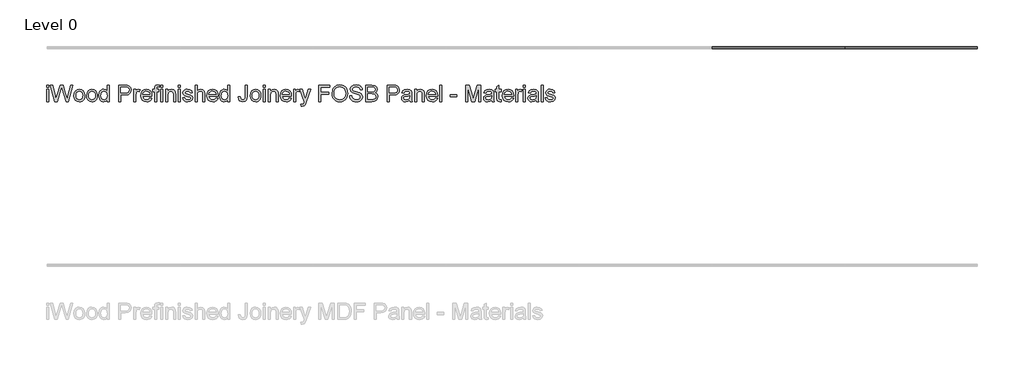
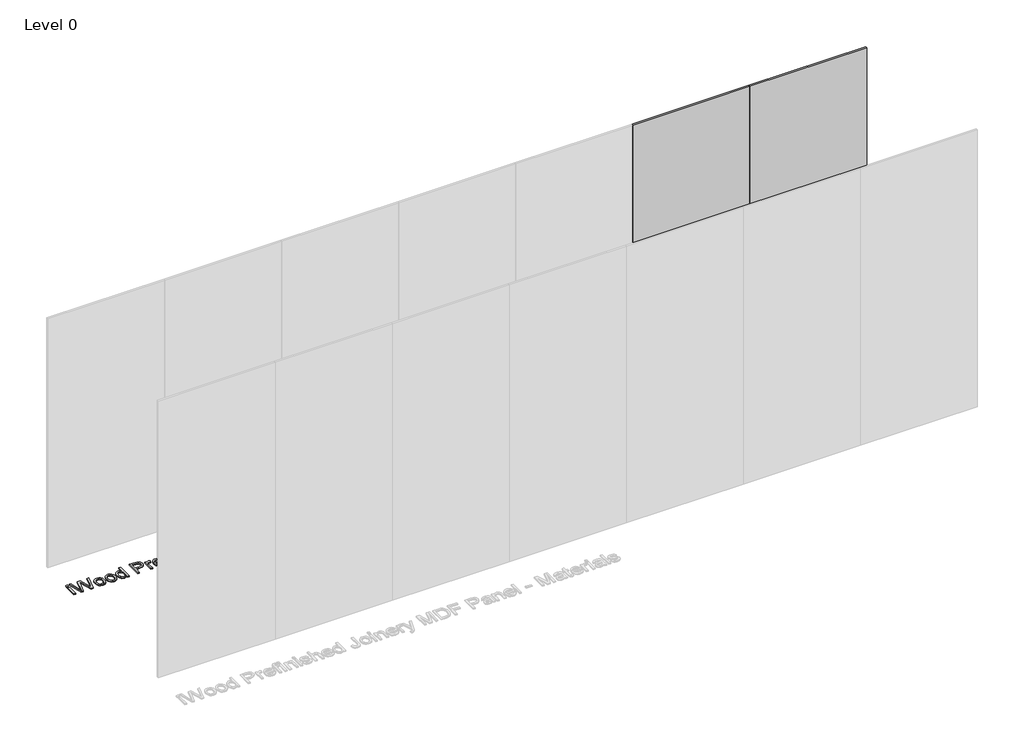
# One storey, part 2 of 2: 3 proxies.
"""IFC4 building model written with IfcOpenShell, lengths in millimetres."""

from ifc_helpers import new_model, si_unit, origin, origin_with_axes, place, context, project, spatial, polyline, outline, extrude, transform, mapped, element, save
from components import generic_models_e840f3b6

model = new_model("IFC4")

# Units and contexts
model_context = context("Model", 3, world=origin())
ifc_project = project(units=[si_unit("LENGTHUNIT", "METRE", prefix="MILLI")], contexts=[model_context])

# Site, building, storey
site = spatial("IfcSite", under=ifc_project)
building = spatial("IfcBuilding", under=site)
storey = spatial("IfcBuildingStorey", under=building, Name="Level 0", Elevation=0.0)

# Proxies
placement = place(None, origin())
generic_models_shape = generic_models_e840f3b6(model_context)
element("IfcBuildingElementProxy", 1, Name="Cladding Board_iWood_FOSB Panel_Spotted Gum : Cladding Board_iWood_FOSB Panel_Spotted Gum", ObjectType="Cladding Board_iWood_FOSB Panel_Spotted Gum : Cladding Board_iWood_FOSB Panel_Spotted Gum", at=placement, inside=storey, context=model_context, shape_type="MappedRepresentation", body=[
    mapped(generic_models_shape, transform((362.0501575, 1494.2915428, 0.0), x_axis=(1.0, 0.0, 0.0), y_axis=(0.0, 1.0, 0.0), z_axis=(0.0, 0.0, 1.0))),
])
element("IfcBuildingElementProxy", 2, Name="Cladding Board_iWood_FOSB Panel_Tasmanian Oak : Cladding Board_iWood_FOSB Panel_Tasmanian Oak", ObjectType="Cladding Board_iWood_FOSB Panel_Tasmanian Oak : Cladding Board_iWood_FOSB Panel_Tasmanian Oak", at=placement, inside=storey, context=model_context, shape_type="MappedRepresentation", body=[
    mapped(generic_models_shape, transform((1582.0501575, 1494.2915428, 0.0), x_axis=(1.0, 0.0, 0.0), y_axis=(0.0, 1.0, 0.0), z_axis=(0.0, 0.0, 1.0))),
])
element("IfcBuildingElementProxy", 3, Name="150mm Arial", ObjectType="150mm Arial", at=placement, inside=storey, context=model_context, shape_type="SweptSolid", body=[
    extrude(outline(polyline([(-5803.3402849, 3099.71536), (-5803.3402849, 3118.5509181), (-5784.5047267, 3118.5509181), (-5784.5047267, 3099.71536), (-5803.3402849, 3099.71536)])), origin_with_axes(), (0.0, 0.0, 1.0), 10.0),
    extrude(outline(polyline([(-5803.3402849, 2967.8664529), (-5803.3402849, 3078.5253571), (-5784.5047267, 3078.5253571), (-5784.5047267, 2967.8664529), (-5803.3402849, 2967.8664529)])), origin_with_axes(), (0.0, 0.0, 1.0), 10.0),
    extrude(outline(polyline([(-5726.9311945, 2967.8664529), (-5768.0236133, 3118.5509181), (-5748.599444, 3118.5509181), (-5724.7606907, 3019.517085), (-5717.4030508, 2988.9460912), (-5709.5303761, 3015.9854179), (-5679.6583581, 3118.5509181), (-5651.6625383, 3118.5509181), (-5629.9575005, 3044.2019669), (-5613.8074809, 2988.9460912), (-5606.6705702, 3018.6341683), (-5582.6110878, 3118.5509181), (-5563.1869184, 3118.5509181), (-5604.3161255, 2967.8664529), (-5624.4392706, 2967.8664529), (-5660.5652825, 3084.1171634), (-5665.6052659, 3100.3407594), (-5671.2706486, 3080.8062254), (-5704.1960872, 2967.8664529), (-5726.9311945, 2967.8664529)])), origin_with_axes(), (0.0, 0.0, 1.0), 10.0),
    extrude(outline(polyline([(-5551.4146946, 3023.195905), (-5547.3404015, 3049.8765467), (-5535.1175222, 3068.6293314), (-5520.0159663, 3077.8171842), (-5501.9345662, 3080.8798018), (-5482.1471134, 3077.1503981), (-5466.3419832, 3065.9621869), (-5455.9815065, 3048.1980851), (-5452.5280143, 3024.7410094), (-5454.0547245, 3005.7123132), (-5458.6348554, 2991.2269596), (-5466.1350496, 2980.3790393), (-5476.4219498, 2972.2626428), (-5488.6402306, 2967.1996668), (-5501.9345662, 2965.5120082), (-5521.9611423, 2969.2276163), (-5537.7478784, 2980.3744408), (-5547.9979905, 2998.5110231), (-5551.4146946, 3023.195905)]), holes=[polyline([(-5532.5791364, 3023.2326932), (-5530.3994356, 3006.1859612), (-5523.8603331, 2994.0412569), (-5514.0194898, 2986.7709889), (-5501.9345662, 2984.3475663), (-5489.904825, 2986.7847845), (-5480.0823757, 2994.0964392), (-5473.5432732, 3006.4020919), (-5471.3635724, 3023.8213044), (-5473.5570688, 3040.3713956), (-5480.137558, 3052.3505531), (-5489.9738028, 3059.620821), (-5501.9345662, 3062.0442437), (-5514.0194898, 3059.6300181), (-5523.8603331, 3052.3873413), (-5530.3994356, 3040.2702281), (-5532.5791364, 3023.2326932)])]), origin_with_axes(), (0.0, 0.0, 1.0), 10.0),
    extrude(outline(polyline([(-5436.0469009, 3023.195905), (-5431.9726078, 3049.8765467), (-5419.7497285, 3068.6293314), (-5404.6481726, 3077.8171842), (-5386.5667725, 3080.8798018), (-5366.7793197, 3077.1503981), (-5350.9741895, 3065.9621869), (-5340.6137128, 3048.1980851), (-5337.1602206, 3024.7410094), (-5338.6869309, 3005.7123132), (-5343.2670617, 2991.2269596), (-5350.7672559, 2980.3790393), (-5361.0541562, 2972.2626428), (-5373.2724369, 2967.1996668), (-5386.5667725, 2965.5120082), (-5406.5933486, 2969.2276163), (-5422.3800848, 2980.3744408), (-5432.6301968, 2998.5110231), (-5436.0469009, 3023.195905)]), holes=[polyline([(-5417.2113427, 3023.2326932), (-5415.0316419, 3006.1859612), (-5408.4925394, 2994.0412569), (-5398.6516961, 2986.7709889), (-5386.5667725, 2984.3475663), (-5374.5370313, 2986.7847845), (-5364.714582, 2994.0964392), (-5358.1754796, 3006.4020919), (-5355.9957787, 3023.8213044), (-5358.1892751, 3040.3713956), (-5364.7697643, 3052.3505531), (-5374.6060092, 3059.620821), (-5386.5667725, 3062.0442437), (-5398.6516961, 3059.6300181), (-5408.4925394, 3052.3873413), (-5415.0316419, 3040.2702281), (-5417.2113427, 3023.2326932)])]), origin_with_axes(), (0.0, 0.0, 1.0), 10.0),
    extrude(outline(polyline([(-5247.6913193, 2967.8664529), (-5247.6913193, 2985.6351533), (-5260.1533219, 2970.5427944), (-5277.3793964, 2965.5120082), (-5289.5562904, 2967.333024), (-5300.7031149, 2972.7960717), (-5310.139288, 2981.5194735), (-5317.1842282, 2993.1215519), (-5321.571221, 3007.1332574), (-5323.033552, 3023.0855404), (-5317.6440807, 3053.067923), (-5310.9118402, 3064.9597085), (-5301.4940611, 3073.7061029), (-5290.1035149, 3079.0863771), (-5277.4529728, 3080.8798018), (-5260.0889426, 3075.747848), (-5247.6913193, 3062.4121257), (-5247.6913193, 3118.5509181), (-5228.8557612, 3118.5509181), (-5228.8557612, 2967.8664529), (-5247.6913193, 2967.8664529)]), holes=[polyline([(-5304.1979938, 3023.1591168), (-5302.0734753, 3006.1215819), (-5295.6999197, 2994.0044687), (-5286.4384905, 2986.7617919), (-5275.650351, 2984.3475663), (-5264.86681, 2986.6514273), (-5255.8399055, 2993.5630103), (-5249.7284659, 3005.211074), (-5247.6913193, 3021.724377), (-5249.7652541, 3039.7781859), (-5255.9870583, 3052.2953708), (-5265.243889, 3059.6070255), (-5276.4229032, 3062.0442437), (-5287.3214073, 3059.7035945), (-5296.2517427, 3052.6816469), (-5302.211431, 3040.619716), (-5304.1979938, 3023.1591168)])]), origin_with_axes(), (0.0, 0.0, 1.0), 10.0),
    extrude(outline(polyline([(-5139.38686, 2967.8664529), (-5139.38686, 3118.5509181), (-5083.5423731, 3118.5509181), (-5061.027995, 3117.1161784), (-5042.7258657, 3110.0712382), (-5030.8616714, 3095.5031111), (-5026.3735111, 3074.9569017), (-5029.403939, 3057.1973984), (-5038.4952228, 3042.3993451), (-5055.4959695, 3032.411349), (-5082.2547861, 3029.0820169), (-5120.5513018, 3029.0820169), (-5120.5513018, 2967.8664529), (-5139.38686, 2967.8664529)]), holes=[polyline([(-5120.5513018, 3047.9175751), (-5081.1511401, 3047.9175751), (-5064.4492976, 3049.6466204), (-5053.4128377, 3054.8337566), (-5047.2600113, 3063.1570867), (-5045.2090692, 3074.2947141), (-5050.0467174, 3089.8929107), (-5062.7570404, 3098.427773), (-5081.5925985, 3099.71536), (-5120.5513018, 3099.71536), (-5120.5513018, 3047.9175751)])]), origin_with_axes(), (0.0, 0.0, 1.0), 10.0),
    extrude(outline(polyline([(-5002.8290634, 2967.8664529), (-5002.8290634, 3078.5253571), (-4986.34795, 3078.5253571), (-4986.34795, 3062.1546083), (-4974.6493025, 3077.2377701), (-4962.8770787, 3080.8798018), (-4943.9679441, 3075.0672663), (-4950.2587262, 3058.1814827), (-4963.5024781, 3062.0442437), (-4974.1526618, 3058.3286355), (-4980.9400846, 3048.0279397), (-4983.9935052, 3026.0285964), (-4983.9935052, 2967.8664529), (-5002.8290634, 2967.8664529)])), origin_with_axes(), (0.0, 0.0, 1.0), 10.0),
    extrude(outline(polyline([(-4854.7197721, 3000.8286797), (-4836.2520959, 2998.4742349), (-4842.9061615, 2984.5590985), (-4853.5241556, 2974.157235), (-4867.8669549, 2967.6733149), (-4885.6954361, 2965.5120082), (-4907.795947, 2969.2414119), (-4924.8012922, 2980.4296231), (-4935.644614, 2998.3500747), (-4939.2590546, 3022.2762), (-4935.6078258, 3047.0070671), (-4924.6541394, 3065.5023344), (-4907.8787204, 3077.035435), (-4886.7622939, 3080.8798018), (-4866.3034564, 3077.044632), (-4849.9557003, 3065.5391226), (-4839.2365386, 3047.0806435), (-4835.6634848, 3022.3865646), (-4835.7738493, 3017.3097931), (-4920.4234964, 3017.3097931), (-4917.1631423, 3003.2107156), (-4909.5893717, 2992.8456404), (-4898.6586779, 2986.4720848), (-4885.3275541, 2984.3475663), (-4866.8598779, 2988.2839037), (-4854.7197721, 3000.8286797)]), holes=[polyline([(-4920.4234964, 3036.1453512), (-4854.4990429, 3036.1453512), (-4857.0466257, 3046.0965592), (-4862.0406238, 3053.2150758), (-4873.0219014, 3059.8369517), (-4886.8358703, 3062.0442437), (-4899.5323976, 3060.2830086), (-4910.0308301, 3054.9993035), (-4917.3286892, 3046.7633453), (-4920.4234964, 3036.1453512)])]), origin_with_axes(), (0.0, 0.0, 1.0), 10.0),
    extrude(outline(polyline([(-4812.1190371, 2967.8664529), (-4812.1190371, 3059.6897989), (-4828.6001504, 3059.6897989), (-4828.6001504, 3078.5253571), (-4812.1190371, 3078.5253571), (-4812.1190371, 3089.6721815), (-4810.1324743, 3105.3807427), (-4800.493966, 3116.6011436), (-4781.5112551, 3120.9053629), (-4764.3311659, 3118.8452237), (-4767.0902808, 3101.186888), (-4777.9427997, 3102.0698048), (-4789.8069941, 3098.9428078), (-4793.2834789, 3087.2809486), (-4793.2834789, 3078.5253571), (-4772.093476, 3078.5253571), (-4772.093476, 3059.6897989), (-4793.2834789, 3059.6897989), (-4793.2834789, 2967.8664529), (-4812.1190371, 2967.8664529)])), origin_with_axes(), (0.0, 0.0, 1.0), 10.0),
    extrude(outline(polyline([(-4755.6123626, 3099.71536), (-4755.6123626, 3118.5509181), (-4736.7768044, 3118.5509181), (-4736.7768044, 3099.71536), (-4755.6123626, 3099.71536)])), origin_with_axes(), (0.0, 0.0, 1.0), 10.0),
    extrude(outline(polyline([(-4755.6123626, 2967.8664529), (-4755.6123626, 3078.5253571), (-4736.7768044, 3078.5253571), (-4736.7768044, 2967.8664529), (-4755.6123626, 2967.8664529)])), origin_with_axes(), (0.0, 0.0, 1.0), 10.0),
    extrude(outline(polyline([(-4708.5234672, 2967.8664529), (-4708.5234672, 3078.5253571), (-4689.6879091, 3078.5253571), (-4689.6879091, 3063.0743133), (-4675.285329, 3076.4284297), (-4655.6220363, 3080.8798018), (-4637.8349418, 3077.2929524), (-4625.694836, 3067.8751733), (-4620.0478474, 3054.0244162), (-4619.054566, 3035.8142574), (-4619.054566, 2967.8664529), (-4637.8901241, 2967.8664529), (-4637.8901241, 3033.2758717), (-4640.0606279, 3049.940926), (-4647.7309675, 3058.7516998), (-4660.6620196, 3062.0442437), (-4671.693881, 3060.1956367), (-4681.0978645, 3054.6498156), (-4687.5403979, 3043.9352525), (-4689.6879091, 3026.5804194), (-4689.6879091, 2967.8664529), (-4708.5234672, 2967.8664529)])), origin_with_axes(), (0.0, 0.0, 1.0), 10.0),
    extrude(outline(polyline([(-4593.1556735, 3099.71536), (-4593.1556735, 3118.5509181), (-4574.3201154, 3118.5509181), (-4574.3201154, 3099.71536), (-4593.1556735, 3099.71536)])), origin_with_axes(), (0.0, 0.0, 1.0), 10.0),
    extrude(outline(polyline([(-4593.1556735, 2967.8664529), (-4593.1556735, 3078.5253571), (-4574.3201154, 3078.5253571), (-4574.3201154, 2967.8664529), (-4593.1556735, 2967.8664529)])), origin_with_axes(), (0.0, 0.0, 1.0), 10.0),
    extrude(outline(polyline([(-4553.1301125, 3000.8286797), (-4534.2945543, 3003.1831245), (-4531.3239072, 2995.1265088), (-4525.575751, 2989.2036086), (-4505.5997587, 2984.3475663), (-4486.3963185, 2988.7989384), (-4480.1423246, 2999.2467871), (-4481.7150201, 3004.0476471), (-4486.4331067, 3007.708073), (-4505.8204879, 3013.0791501), (-4534.1841897, 3022.2945941), (-4546.5634188, 3033.0551425), (-4550.7756677, 3048.2486689), (-4547.3911533, 3062.283367), (-4538.1573153, 3073.0071271), (-4526.1827563, 3078.5805394), (-4509.9775544, 3080.8798018), (-4487.0585061, 3077.1825878), (-4472.4903791, 3067.1761975), (-4466.015656, 3050.2720198), (-4484.8512142, 3047.9175751), (-4491.9329426, 3058.3102414), (-4508.5060264, 3062.0442437), (-4526.5322442, 3058.4757883), (-4531.9401095, 3050.1616552), (-4529.6960294, 3044.6802135), (-4522.6694833, 3040.523147), (-4506.4458873, 3036.5132332), (-4478.7995553, 3027.6472771), (-4465.9604737, 3017.6040987), (-4461.3067665, 3001.2333499), (-4466.7698141, 2983.2071321), (-4482.5335576, 2970.1289272), (-4505.8572761, 2965.5120082), (-4524.8491841, 2967.7376942), (-4538.7091382, 2974.4147524), (-4547.9613704, 2985.4696064), (-4553.1301125, 3000.8286797)])), origin_with_axes(), (0.0, 0.0, 1.0), 10.0),
    extrude(outline(polyline([(-4440.1167635, 2967.8664529), (-4440.1167635, 3118.5509181), (-4421.2812054, 3118.5509181), (-4421.2812054, 3063.1478897), (-4406.5935167, 3076.4468238), (-4388.5029196, 3080.8798018), (-4367.3497049, 3076.0421536), (-4354.5106233, 3062.6696431), (-4350.6478623, 3037.9111848), (-4350.6478623, 2967.8664529), (-4369.4834205, 2967.8664529), (-4369.4834205, 3035.9614102), (-4370.9825396, 3047.7520282), (-4375.479897, 3055.827038), (-4382.7271723, 3060.4899423), (-4392.4760452, 3062.0442437), (-4407.9086949, 3057.8503889), (-4418.2093907, 3046.4828353), (-4421.2812054, 3026.6539958), (-4421.2812054, 2967.8664529), (-4440.1167635, 2967.8664529)])), origin_with_axes(), (0.0, 0.0, 1.0), 10.0),
    extrude(outline(polyline([(-4247.2730217, 3000.8286797), (-4228.8053455, 2998.4742349), (-4235.4594111, 2984.5590985), (-4246.0774052, 2974.157235), (-4260.4202045, 2967.6733149), (-4278.2486857, 2965.5120082), (-4300.3491965, 2969.2414119), (-4317.3545417, 2980.4296231), (-4328.1978636, 2998.3500747), (-4331.8123042, 3022.2762), (-4328.1610754, 3047.0070671), (-4317.2073889, 3065.5023344), (-4300.43197, 3077.035435), (-4279.3155434, 3080.8798018), (-4258.856706, 3077.044632), (-4242.5089498, 3065.5391226), (-4231.7897882, 3047.0806435), (-4228.2167343, 3022.3865646), (-4228.3270989, 3017.3097931), (-4312.976746, 3017.3097931), (-4309.7163918, 3003.2107156), (-4302.1426212, 2992.8456404), (-4291.2119275, 2986.4720848), (-4277.8808037, 2984.3475663), (-4259.4131275, 2988.2839037), (-4247.2730217, 3000.8286797)]), holes=[polyline([(-4312.976746, 3036.1453512), (-4247.0522925, 3036.1453512), (-4249.5998753, 3046.0965592), (-4254.5938734, 3053.2150758), (-4265.5751509, 3059.8369517), (-4279.3891198, 3062.0442437), (-4292.0856472, 3060.2830086), (-4302.5840796, 3054.9993035), (-4309.8819387, 3046.7633453), (-4312.976746, 3036.1453512)])]), origin_with_axes(), (0.0, 0.0, 1.0), 10.0),
    extrude(outline(polyline([(-4141.1022779, 2967.8664529), (-4141.1022779, 2985.6351533), (-4153.5642804, 2970.5427944), (-4170.7903549, 2965.5120082), (-4182.9672489, 2967.333024), (-4194.1140734, 2972.7960717), (-4203.5502465, 2981.5194735), (-4210.5951867, 2993.1215519), (-4214.9821795, 3007.1332574), (-4216.4445105, 3023.0855404), (-4211.0550392, 3053.067923), (-4204.3227987, 3064.9597085), (-4194.9050197, 3073.7061029), (-4183.5144734, 3079.0863771), (-4170.8639313, 3080.8798018), (-4153.4999011, 3075.747848), (-4141.1022779, 3062.4121257), (-4141.1022779, 3118.5509181), (-4122.2667197, 3118.5509181), (-4122.2667197, 2967.8664529), (-4141.1022779, 2967.8664529)]), holes=[polyline([(-4197.6089523, 3023.1591168), (-4195.4844338, 3006.1215819), (-4189.1108782, 2994.0044687), (-4179.849449, 2986.7617919), (-4169.0613095, 2984.3475663), (-4158.2777685, 2986.6514273), (-4149.2508641, 2993.5630103), (-4143.1394244, 3005.211074), (-4141.1022779, 3021.724377), (-4143.1762126, 3039.7781859), (-4149.3980168, 3052.2953708), (-4158.6548476, 3059.6070255), (-4169.8338617, 3062.0442437), (-4180.7323658, 3059.7035945), (-4189.6627012, 3052.6816469), (-4195.6223895, 3040.619716), (-4197.6089523, 3023.1591168)])]), origin_with_axes(), (0.0, 0.0, 1.0), 10.0),
    extrude(outline(polyline([(-4042.2155976, 3010.1728824), (-4023.3800394, 3012.6009035), (-4021.4210678, 2998.9064963), (-4016.9421045, 2990.3440428), (-4010.0994994, 2985.8466854), (-4001.0496023, 2984.3475663), (-3988.1553384, 2987.7504748), (-3980.6873339, 2997.021101), (-3978.6455888, 3015.6911123), (-3978.6455888, 3118.5509181), (-3959.8100306, 3118.5509181), (-3959.8100306, 3016.0222061), (-3964.3533733, 2986.7571934), (-3970.2302881, 2977.6291214), (-3978.7743475, 2970.9566617), (-4001.9325191, 2965.5120082), (-4019.3425345, 2968.3217069), (-4032.1356309, 2976.7508031), (-4039.897941, 2990.7257204), (-4042.2155976, 3010.1728824)])), origin_with_axes(), (0.0, 0.0, 1.0), 10.0),
    extrude(outline(polyline([(-3933.9111382, 3023.195905), (-3929.8368451, 3049.8765467), (-3917.6139658, 3068.6293314), (-3902.5124099, 3077.8171842), (-3884.4310098, 3080.8798018), (-3864.643557, 3077.1503981), (-3848.8384268, 3065.9621869), (-3838.4779501, 3048.1980851), (-3835.0244579, 3024.7410094), (-3836.5511681, 3005.7123132), (-3841.131299, 2991.2269596), (-3848.6314932, 2980.3790393), (-3858.9183935, 2972.2626428), (-3871.1366742, 2967.1996668), (-3884.4310098, 2965.5120082), (-3904.4575859, 2969.2276163), (-3920.2443221, 2980.3744408), (-3930.4944341, 2998.5110231), (-3933.9111382, 3023.195905)]), holes=[polyline([(-3915.07558, 3023.2326932), (-3912.8958792, 3006.1859612), (-3906.3567767, 2994.0412569), (-3896.5159334, 2986.7709889), (-3884.4310098, 2984.3475663), (-3872.4012686, 2986.7847845), (-3862.5788193, 2994.0964392), (-3856.0397168, 3006.4020919), (-3853.860016, 3023.8213044), (-3856.0535124, 3040.3713956), (-3862.6340016, 3052.3505531), (-3872.4702465, 3059.620821), (-3884.4310098, 3062.0442437), (-3896.5159334, 3059.6300181), (-3906.3567767, 3052.3873413), (-3912.8958792, 3040.2702281), (-3915.07558, 3023.2326932)])]), origin_with_axes(), (0.0, 0.0, 1.0), 10.0),
    extrude(outline(polyline([(-3813.8344549, 3099.71536), (-3813.8344549, 3118.5509181), (-3794.9988968, 3118.5509181), (-3794.9988968, 3099.71536), (-3813.8344549, 3099.71536)])), origin_with_axes(), (0.0, 0.0, 1.0), 10.0),
    extrude(outline(polyline([(-3813.8344549, 2967.8664529), (-3813.8344549, 3078.5253571), (-3794.9988968, 3078.5253571), (-3794.9988968, 2967.8664529), (-3813.8344549, 2967.8664529)])), origin_with_axes(), (0.0, 0.0, 1.0), 10.0),
    extrude(outline(polyline([(-3766.7455596, 2967.8664529), (-3766.7455596, 3078.5253571), (-3747.9100014, 3078.5253571), (-3747.9100014, 3063.0743133), (-3733.5074213, 3076.4284297), (-3713.8441287, 3080.8798018), (-3696.0570342, 3077.2929524), (-3683.9169284, 3067.8751733), (-3678.2699397, 3054.0244162), (-3677.2766583, 3035.8142574), (-3677.2766583, 2967.8664529), (-3696.1122165, 2967.8664529), (-3696.1122165, 3033.2758717), (-3698.2827203, 3049.940926), (-3705.9530599, 3058.7516998), (-3718.884112, 3062.0442437), (-3729.9159733, 3060.1956367), (-3739.3199568, 3054.6498156), (-3745.7624903, 3043.9352525), (-3747.9100014, 3026.5804194), (-3747.9100014, 2967.8664529), (-3766.7455596, 2967.8664529)])), origin_with_axes(), (0.0, 0.0, 1.0), 10.0),
    extrude(outline(polyline([(-3573.9018177, 3000.8286797), (-3555.4341415, 2998.4742349), (-3562.0882071, 2984.5590985), (-3572.7062012, 2974.157235), (-3587.0490005, 2967.6733149), (-3604.8774817, 2965.5120082), (-3626.9779925, 2969.2414119), (-3643.9833378, 2980.4296231), (-3654.8266596, 2998.3500747), (-3658.4411002, 3022.2762), (-3654.7898714, 3047.0070671), (-3643.836185, 3065.5023344), (-3627.060766, 3077.035435), (-3605.9443395, 3080.8798018), (-3585.485502, 3077.044632), (-3569.1377459, 3065.5391226), (-3558.4185842, 3047.0806435), (-3554.8455303, 3022.3865646), (-3554.9558949, 3017.3097931), (-3639.605542, 3017.3097931), (-3636.3451878, 3003.2107156), (-3628.7714173, 2992.8456404), (-3617.8407235, 2986.4720848), (-3604.5095997, 2984.3475663), (-3586.0419235, 2988.2839037), (-3573.9018177, 3000.8286797)]), holes=[polyline([(-3639.605542, 3036.1453512), (-3573.6810885, 3036.1453512), (-3576.2286713, 3046.0965592), (-3581.2226694, 3053.2150758), (-3592.203947, 3059.8369517), (-3606.0179159, 3062.0442437), (-3618.7144432, 3060.2830086), (-3629.2128757, 3054.9993035), (-3636.5107347, 3046.7633453), (-3639.605542, 3036.1453512)])]), origin_with_axes(), (0.0, 0.0, 1.0), 10.0),
    extrude(outline(polyline([(-3465.3766291, 2925.4864471), (-3467.7310739, 2943.6230294), (-3458.166142, 2941.9675605), (-3449.2266095, 2944.0460937), (-3443.7451678, 2949.8402352), (-3438.5948199, 2963.7093864), (-3437.1232919, 2968.2711231), (-3477.148853, 3078.5253571), (-3457.2832252, 3078.5253571), (-3436.0564341, 3017.0890639), (-3428.662006, 2992.5145466), (-3421.2675779, 3014.2195843), (-3399.4521756, 3078.5253571), (-3379.7337006, 3078.5253571), (-3418.2509455, 2965.2177026), (-3428.2573358, 2940.6431853), (-3439.1834311, 2927.3626453), (-3453.8619227, 2923.1320023), (-3465.3766291, 2925.4864471)])), origin_with_axes(), (0.0, 0.0, 1.0), 10.0),
    extrude(outline(polyline([(-3536.0099722, 2967.8664529), (-3536.0099722, 3078.5253571), (-3519.5288588, 3078.5253571), (-3519.5288588, 3062.1546083), (-3507.8302114, 3077.2377701), (-3496.0579875, 3080.8798018), (-3477.148853, 3075.0672663), (-3483.4396351, 3058.1814827), (-3496.6833869, 3062.0442437), (-3507.3335707, 3058.3286355), (-3514.1209935, 3048.0279397), (-3517.174414, 3026.0285964), (-3517.174414, 2967.8664529), (-3536.0099722, 2967.8664529)])), origin_with_axes(), (0.0, 0.0, 1.0), 10.0),
    extrude(outline(polyline([(-3302.91994, 2967.8664529), (-3302.91994, 3118.5509181), (-3201.678815, 3118.5509181), (-3201.678815, 3099.71536), (-3284.0843819, 3099.71536), (-3284.0843819, 3054.9809094), (-3213.4510388, 3054.9809094), (-3213.4510388, 3036.1453512), (-3284.0843819, 3036.1453512), (-3284.0843819, 2967.8664529), (-3302.91994, 2967.8664529)])), origin_with_axes(), (0.0, 0.0, 1.0), 10.0),
    extrude(outline(polyline([(-3182.8432568, 3041.2221228), (-3177.8216676, 3074.5430345), (-3171.544681, 3088.1615661), (-3162.7568999, 3099.7521482), (-3139.7550781, 3115.6170592), (-3110.9223268, 3120.9053629), (-3091.1578666, 3118.4221594), (-3073.4351515, 3110.972549), (-3058.7198716, 3099.0807636), (-3047.9777174, 3083.2710348), (-3041.4110238, 3064.306718), (-3039.2221259, 3042.9511681), (-3041.5259869, 3021.3105098), (-3048.4375699, 3002.0794785), (-3059.5751973, 2986.2421586), (-3074.5571915, 2974.7826344), (-3092.1281553, 2967.8296647), (-3111.0326914, 2965.5120082), (-3131.1006542, 2968.0733865), (-3148.9245369, 2975.7575217), (-3163.6030285, 2987.8700364), (-3174.2348181, 3003.7165534), (-3180.6911471, 3021.9497047), (-3182.8432568, 3041.2221228)]), holes=[polyline([(-3164.0076987, 3041.0381818), (-3160.2415067, 3017.4661429), (-3148.942931, 2999.5043045), (-3131.9605784, 2988.1367509), (-3111.143056, 2984.3475663), (-3090.0220309, 2988.1735391), (-3073.0120872, 2999.6514573), (-3061.7962848, 3018.1651187), (-3058.0576841, 3043.0983209), (-3059.6579707, 3059.7725724), (-3064.4588308, 3074.1843495), (-3072.336104, 3085.9703689), (-3083.1656302, 3094.7673472), (-3096.2300396, 3100.2441904), (-3110.8119622, 3102.0698048), (-3131.073063, 3098.5519332), (-3148.2991375, 3087.9983184), (-3160.0805584, 3069.2225411), (-3164.0076987, 3041.0381818)])]), origin_with_axes(), (0.0, 0.0, 1.0), 10.0),
    extrude(outline(polyline([(-3020.3865678, 3019.6642378), (-3001.5510096, 3019.6642378), (-2995.4809567, 3000.8102856), (-2980.6553123, 2988.8909089), (-2958.0673578, 2984.3475663), (-2938.385671, 2987.787263), (-2925.6753481, 2997.2418302), (-2921.4998874, 3009.8785768), (-2924.6268844, 3021.6324065), (-2937.4291778, 3030.1856629), (-2964.8547806, 3037.3777559), (-2994.3773107, 3046.6667763), (-3010.3985716, 3060.6830803), (-3015.6776782, 3079.4082739), (-3014.0452019, 3090.4401352), (-3009.1477728, 3100.7270355), (-3001.1141497, 3109.4458388), (-2990.0730913, 3115.7734091), (-2962.1508479, 3120.9053629), (-2932.3524063, 3115.5342858), (-2920.9296704, 3108.9032128), (-2912.4867786, 3099.7521482), (-2907.1432926, 3088.651309), (-2905.0187741, 3076.1709123), (-2923.8543322, 3076.1709123), (-2927.312423, 3087.4097073), (-2934.5229101, 3095.5215052), (-2945.7892962, 3100.4327299), (-2961.4150839, 3102.0698048), (-2977.4087537, 3100.451124), (-2988.3808342, 3095.5950816), (-2994.7267986, 3088.4489739), (-2996.8421201, 3079.9600969), (-2995.3430009, 3072.7220186), (-2990.8456435, 3066.900286), (-2960.0907087, 3056.378861), (-2926.7606, 3046.9242937), (-2916.0230442, 3040.0908856), (-2908.5320471, 3031.6571909), (-2904.1312587, 3021.71518), (-2902.6643293, 3010.3568234), (-2904.3519879, 2998.7455479), (-2909.4149639, 2987.8240512), (-2917.6463235, 2978.4246662), (-2928.8391333, 2971.379726), (-2942.2990157, 2966.9789376), (-2957.3315938, 2965.5120082), (-2975.7854744, 2967.0939007), (-2990.9744022, 2971.8395785), (-3003.0731214, 2979.7674355), (-3012.2563757, 2990.8958658), (-3018.1516846, 3004.4523173), (-3020.3865678, 3019.6642378)])), origin_with_axes(), (0.0, 0.0, 1.0), 10.0),
    extrude(outline(polyline([(-2874.4109921, 2967.8664529), (-2874.4109921, 3118.5509181), (-2816.9110362, 3118.5509181), (-2788.7496695, 3114.1179401), (-2779.2859052, 3108.4939441), (-2772.1214033, 3100.4879122), (-2766.1065327, 3081.2108956), (-2771.1649101, 3063.6077422), (-2786.450407, 3050.2720198), (-2775.7772306, 3044.6986076), (-2767.8907604, 3036.2189276), (-2763.0209224, 3025.3939999), (-2761.3976431, 3012.7848445), (-2765.8306212, 2992.5329407), (-2776.8118987, 2978.1119665), (-2793.2010416, 2970.460021), (-2817.3524946, 2967.8664529), (-2874.4109921, 2967.8664529)]), holes=[polyline([(-2855.5754339, 3057.3353541), (-2821.1784674, 3057.3353541), (-2801.0921104, 3058.9540349), (-2789.0071869, 3065.9253987), (-2784.9420908, 3078.1942633), (-2788.7312754, 3090.4815219), (-2799.5837942, 3097.7471913), (-2823.7904295, 3099.71536), (-2855.5754339, 3099.71536), (-2855.5754339, 3057.3353541)]), polyline([(-2855.5754339, 2986.7020111), (-2816.9478244, 2986.7020111), (-2802.9683086, 2987.4377751), (-2791.1409025, 2991.5396593), (-2783.305016, 2999.9089747), (-2780.2332013, 3012.6009035), (-2783.8384449, 3027.2426069), (-2795.5186982, 3035.9798043), (-2818.7872344, 3038.499796), (-2855.5754339, 3038.499796), (-2855.5754339, 2986.7020111)])]), origin_with_axes(), (0.0, 0.0, 1.0), 10.0),
    extrude(outline(polyline([(-2676.6376315, 2967.8664529), (-2676.6376315, 3118.5509181), (-2620.7931446, 3118.5509181), (-2598.2787665, 3117.1161784), (-2579.9766372, 3110.0712382), (-2568.1124429, 3095.5031111), (-2563.6242825, 3074.9569017), (-2566.6547105, 3057.1973984), (-2575.7459943, 3042.3993451), (-2592.746741, 3032.411349), (-2619.5055576, 3029.0820169), (-2657.8020733, 3029.0820169), (-2657.8020733, 2967.8664529), (-2676.6376315, 2967.8664529)]), holes=[polyline([(-2657.8020733, 3047.9175751), (-2618.4019116, 3047.9175751), (-2601.700069, 3049.6466204), (-2590.6636092, 3054.8337566), (-2584.5107828, 3063.1570867), (-2582.4598407, 3074.2947141), (-2587.2974889, 3089.8929107), (-2600.0078119, 3098.427773), (-2618.84337, 3099.71536), (-2657.8020733, 3099.71536), (-2657.8020733, 3047.9175751)])]), origin_with_axes(), (0.0, 0.0, 1.0), 10.0),
    extrude(outline(polyline([(-2469.4464918, 2981.9931215), (-2487.7118328, 2969.2276163), (-2507.8901603, 2965.5120082), (-2523.6309111, 2967.7468913), (-2535.2421866, 2974.4515406), (-2542.4020899, 2984.6326749), (-2544.7887244, 2997.2970125), (-2541.1834808, 3012.1962333), (-2531.7105195, 3023.011964), (-2518.5219499, 3029.1923815), (-2502.2247775, 3032.0250729), (-2469.5568564, 3038.499796), (-2469.4464918, 3042.6936507), (-2470.7432758, 3051.0997543), (-2474.6336279, 3056.5995902), (-2483.3340371, 3060.6830803), (-2495.4557488, 3062.0442437), (-2514.5120362, 3058.420606), (-2523.5987215, 3045.5631303), (-2542.4342796, 3047.9175751), (-2534.2856934, 3066.3116748), (-2517.8781564, 3077.0906173), (-2493.0277277, 3080.8798018), (-2470.2006499, 3077.5320757), (-2457.3063859, 3069.1259721), (-2451.5306386, 3056.3420728), (-2450.6109336, 3039.8609594), (-2450.6109336, 3016.4268763), (-2449.6544404, 2983.7037728), (-2445.9020441, 2967.8664529), (-2464.7376022, 2967.8664529), (-2469.4464918, 2981.9931215)]), holes=[polyline([(-2469.4464918, 3019.6642378), (-2499.8335446, 3013.8884905), (-2516.0387465, 3010.83507), (-2523.3779923, 3005.868663), (-2525.9531662, 2998.6213877), (-2520.3429658, 2988.4310565), (-2503.8802465, 2984.3475663), (-2484.8239592, 2988.8541207), (-2472.5367005, 2999.7618219), (-2469.5568564, 3014.3299489), (-2469.4464918, 3019.6642378)])]), origin_with_axes(), (0.0, 0.0, 1.0), 10.0),
    extrude(outline(polyline([(-2424.7120412, 2967.8664529), (-2424.7120412, 3078.5253571), (-2405.876483, 3078.5253571), (-2405.876483, 3063.0743133), (-2391.4739029, 3076.4284297), (-2371.8106103, 3080.8798018), (-2354.0235158, 3077.2929524), (-2341.8834099, 3067.8751733), (-2336.2364213, 3054.0244162), (-2335.2431399, 3035.8142574), (-2335.2431399, 2967.8664529), (-2354.0786981, 2967.8664529), (-2354.0786981, 3033.2758717), (-2356.2492019, 3049.940926), (-2363.9195415, 3058.7516998), (-2376.8505936, 3062.0442437), (-2387.8824549, 3060.1956367), (-2397.2864384, 3054.6498156), (-2403.7289719, 3043.9352525), (-2405.876483, 3026.5804194), (-2405.876483, 2967.8664529), (-2424.7120412, 2967.8664529)])), origin_with_axes(), (0.0, 0.0, 1.0), 10.0),
    extrude(outline(polyline([(-2231.8682993, 3000.8286797), (-2213.4006231, 2998.4742349), (-2220.0546887, 2984.5590985), (-2230.6726828, 2974.157235), (-2245.0154821, 2967.6733149), (-2262.8439633, 2965.5120082), (-2284.9444741, 2969.2414119), (-2301.9498194, 2980.4296231), (-2312.7931412, 2998.3500747), (-2316.4075818, 3022.2762), (-2312.756353, 3047.0070671), (-2301.8026666, 3065.5023344), (-2285.0272476, 3077.035435), (-2263.9108211, 3080.8798018), (-2243.4519836, 3077.044632), (-2227.1042275, 3065.5391226), (-2216.3850658, 3047.0806435), (-2212.8120119, 3022.3865646), (-2212.9223765, 3017.3097931), (-2297.5720236, 3017.3097931), (-2294.3116694, 3003.2107156), (-2286.7378989, 2992.8456404), (-2275.8072051, 2986.4720848), (-2262.4760813, 2984.3475663), (-2244.0084051, 2988.2839037), (-2231.8682993, 3000.8286797)]), holes=[polyline([(-2297.5720236, 3036.1453512), (-2231.6475701, 3036.1453512), (-2234.1951529, 3046.0965592), (-2239.189151, 3053.2150758), (-2250.1704285, 3059.8369517), (-2263.9843975, 3062.0442437), (-2276.6809248, 3060.2830086), (-2287.1793573, 3054.9993035), (-2294.4772163, 3046.7633453), (-2297.5720236, 3036.1453512)])]), origin_with_axes(), (0.0, 0.0, 1.0), 10.0),
    extrude(outline(polyline([(-2193.9764538, 2967.8664529), (-2193.9764538, 3118.5509181), (-2175.1408956, 3118.5509181), (-2175.1408956, 2967.8664529), (-2193.9764538, 2967.8664529)])), origin_with_axes(), (0.0, 0.0, 1.0), 10.0),
    extrude(outline(polyline([(-2097.4442183, 3012.6009035), (-2097.4442183, 3031.4364617), (-2038.583099, 3031.4364617), (-2038.583099, 3012.6009035), (-2097.4442183, 3012.6009035)])), origin_with_axes(), (0.0, 0.0, 1.0), 10.0),
    extrude(outline(polyline([(-1956.1775321, 2967.8664529), (-1956.1775321, 3118.5509181), (-1923.7671283, 3118.5509181), (-1892.9386171, 3012.3433861), (-1886.7214114, 2990.1601018), (-1879.9891709, 3014.1827961), (-1849.6756945, 3118.5509181), (-1817.2652907, 3118.5509181), (-1817.2652907, 2967.8664529), (-1836.1008489, 2967.8664529), (-1836.1008489, 3099.71536), (-1873.9559062, 2967.8664529), (-1899.4869166, 2967.8664529), (-1937.3419739, 3099.71536), (-1937.3419739, 2967.8664529), (-1956.1775321, 2967.8664529)])), origin_with_axes(), (0.0, 0.0, 1.0), 10.0),
    extrude(outline(polyline([(-1716.0241657, 2981.9931215), (-1734.2895067, 2969.2276163), (-1754.4678341, 2965.5120082), (-1770.208585, 2967.7468913), (-1781.8198605, 2974.4515406), (-1788.9797638, 2984.6326749), (-1791.3663983, 2997.2970125), (-1787.7611547, 3012.1962333), (-1778.2881933, 3023.011964), (-1765.0996238, 3029.1923815), (-1748.8024514, 3032.0250729), (-1716.1345303, 3038.499796), (-1716.0241657, 3042.6936507), (-1717.3209497, 3051.0997543), (-1721.2113018, 3056.5995902), (-1729.911711, 3060.6830803), (-1742.0334227, 3062.0442437), (-1761.0897101, 3058.420606), (-1770.1763953, 3045.5631303), (-1789.0119535, 3047.9175751), (-1780.8633673, 3066.3116748), (-1764.4558303, 3077.0906173), (-1739.6054015, 3080.8798018), (-1716.7783237, 3077.5320757), (-1703.8840598, 3069.1259721), (-1698.1083125, 3056.3420728), (-1697.1886075, 3039.8609594), (-1697.1886075, 3016.4268763), (-1696.2321143, 2983.7037728), (-1692.479718, 2967.8664529), (-1711.3152761, 2967.8664529), (-1716.0241657, 2981.9931215)]), holes=[polyline([(-1716.0241657, 3019.6642378), (-1746.4112185, 3013.8884905), (-1762.6164203, 3010.83507), (-1769.9556661, 3005.868663), (-1772.5308401, 2998.6213877), (-1766.9206397, 2988.4310565), (-1750.4579204, 2984.3475663), (-1731.401633, 2988.8541207), (-1719.1143744, 2999.7618219), (-1716.1345303, 3014.3299489), (-1716.0241657, 3019.6642378)])]), origin_with_axes(), (0.0, 0.0, 1.0), 10.0),
    extrude(outline(polyline([(-1631.264154, 2983.5750141), (-1628.9097092, 2967.3146299), (-1642.9995896, 2965.5120082), (-1658.7817272, 2968.6390051), (-1666.6544019, 2976.8427736), (-1668.9352703, 2998.2167175), (-1668.9352703, 3059.6897989), (-1683.0619389, 3059.6897989), (-1683.0619389, 3078.5253571), (-1668.9352703, 3078.5253571), (-1668.9352703, 3105.4175309), (-1650.0997121, 3116.490779), (-1650.0997121, 3078.5253571), (-1631.264154, 3078.5253571), (-1631.264154, 3059.6897989), (-1650.0997121, 3059.6897989), (-1650.0997121, 2998.7685405), (-1649.1064307, 2989.0564558), (-1645.8874633, 2985.6167592), (-1639.4679225, 2984.3475663), (-1631.264154, 2983.5750141)])), origin_with_axes(), (0.0, 0.0, 1.0), 10.0),
    extrude(outline(polyline([(-1534.9526476, 3000.8286797), (-1516.4849715, 2998.4742349), (-1523.1390371, 2984.5590985), (-1533.7570311, 2974.157235), (-1548.0998304, 2967.6733149), (-1565.9283116, 2965.5120082), (-1588.0288225, 2969.2414119), (-1605.0341677, 2980.4296231), (-1615.8774895, 2998.3500747), (-1619.4919301, 3022.2762), (-1615.8407013, 3047.0070671), (-1604.8870149, 3065.5023344), (-1588.1115959, 3077.035435), (-1566.9951694, 3080.8798018), (-1546.5363319, 3077.044632), (-1530.1885758, 3065.5391226), (-1519.4694142, 3047.0806435), (-1515.8963603, 3022.3865646), (-1516.0067249, 3017.3097931), (-1600.656372, 3017.3097931), (-1597.3960178, 3003.2107156), (-1589.8222472, 2992.8456404), (-1578.8915534, 2986.4720848), (-1565.5604296, 2984.3475663), (-1547.0927535, 2988.2839037), (-1534.9526476, 3000.8286797)]), holes=[polyline([(-1600.656372, 3036.1453512), (-1534.7319184, 3036.1453512), (-1537.2795012, 3046.0965592), (-1542.2734993, 3053.2150758), (-1553.2547769, 3059.8369517), (-1567.0687458, 3062.0442437), (-1579.7652732, 3060.2830086), (-1590.2637056, 3054.9993035), (-1597.5615647, 3046.7633453), (-1600.656372, 3036.1453512)])]), origin_with_axes(), (0.0, 0.0, 1.0), 10.0),
    extrude(outline(polyline([(-1497.0608021, 2967.8664529), (-1497.0608021, 3078.5253571), (-1480.5796887, 3078.5253571), (-1480.5796887, 3062.1546083), (-1468.8810413, 3077.2377701), (-1457.1088174, 3080.8798018), (-1438.1996829, 3075.0672663), (-1444.490465, 3058.1814827), (-1457.7342168, 3062.0442437), (-1468.3844006, 3058.3286355), (-1475.1718234, 3048.0279397), (-1478.225244, 3026.0285964), (-1478.225244, 2967.8664529), (-1497.0608021, 2967.8664529)])), origin_with_axes(), (0.0, 0.0, 1.0), 10.0),
    extrude(outline(polyline([(-1426.427459, 3099.71536), (-1426.427459, 3118.5509181), (-1407.5919009, 3118.5509181), (-1407.5919009, 3099.71536), (-1426.427459, 3099.71536)])), origin_with_axes(), (0.0, 0.0, 1.0), 10.0),
    extrude(outline(polyline([(-1426.427459, 2967.8664529), (-1426.427459, 3078.5253571), (-1407.5919009, 3078.5253571), (-1407.5919009, 2967.8664529), (-1426.427459, 2967.8664529)])), origin_with_axes(), (0.0, 0.0, 1.0), 10.0),
    extrude(outline(polyline([(-1308.7052206, 2981.9931215), (-1326.9705617, 2969.2276163), (-1347.1488891, 2965.5120082), (-1362.88964, 2967.7468913), (-1374.5009154, 2974.4515406), (-1381.6608188, 2984.6326749), (-1384.0474532, 2997.2970125), (-1380.4422097, 3012.1962333), (-1370.9692483, 3023.011964), (-1357.7806787, 3029.1923815), (-1341.4835064, 3032.0250729), (-1308.8155852, 3038.499796), (-1308.7052206, 3042.6936507), (-1310.0020046, 3051.0997543), (-1313.8923567, 3056.5995902), (-1322.5927659, 3060.6830803), (-1334.7144777, 3062.0442437), (-1353.770765, 3058.420606), (-1362.8574503, 3045.5631303), (-1381.6930084, 3047.9175751), (-1373.5444222, 3066.3116748), (-1357.1368853, 3077.0906173), (-1332.2864565, 3080.8798018), (-1309.4593787, 3077.5320757), (-1296.5651148, 3069.1259721), (-1290.7893674, 3056.3420728), (-1289.8696624, 3039.8609594), (-1289.8696624, 3016.4268763), (-1288.9131693, 2983.7037728), (-1285.1607729, 2967.8664529), (-1303.9963311, 2967.8664529), (-1308.7052206, 2981.9931215)]), holes=[polyline([(-1308.7052206, 3019.6642378), (-1339.0922734, 3013.8884905), (-1355.2974753, 3010.83507), (-1362.6367211, 3005.868663), (-1365.2118951, 2998.6213877), (-1359.6016946, 2988.4310565), (-1343.1389753, 2984.3475663), (-1324.082688, 2988.8541207), (-1311.7954294, 2999.7618219), (-1308.8155852, 3014.3299489), (-1308.7052206, 3019.6642378)])]), origin_with_axes(), (0.0, 0.0, 1.0), 10.0),
    extrude(outline(polyline([(-1263.97077, 2967.8664529), (-1263.97077, 3118.5509181), (-1245.1352118, 3118.5509181), (-1245.1352118, 2967.8664529), (-1263.97077, 2967.8664529)])), origin_with_axes(), (0.0, 0.0, 1.0), 10.0),
    extrude(outline(polyline([(-1223.9452089, 3000.8286797), (-1205.1096507, 3003.1831245), (-1202.1390036, 2995.1265088), (-1196.3908475, 2989.2036086), (-1176.4148551, 2984.3475663), (-1157.211415, 2988.7989384), (-1150.9574211, 2999.2467871), (-1152.5301166, 3004.0476471), (-1157.2482032, 3007.708073), (-1176.6355843, 3013.0791501), (-1204.9992862, 3022.2945941), (-1217.3785153, 3033.0551425), (-1221.5907641, 3048.2486689), (-1218.2062498, 3062.283367), (-1208.9724117, 3073.0071271), (-1196.9978528, 3078.5805394), (-1180.7926509, 3080.8798018), (-1157.8736026, 3077.1825878), (-1143.3054756, 3067.1761975), (-1136.8307524, 3050.2720198), (-1155.6663106, 3047.9175751), (-1162.748039, 3058.3102414), (-1179.3211229, 3062.0442437), (-1197.3473407, 3058.4757883), (-1202.755206, 3050.1616552), (-1200.5111258, 3044.6802135), (-1193.4845797, 3040.523147), (-1177.2609837, 3036.5132332), (-1149.6146518, 3027.6472771), (-1136.7755701, 3017.6040987), (-1132.1218629, 3001.2333499), (-1137.5849105, 2983.2071321), (-1153.348654, 2970.1289272), (-1176.6723725, 2965.5120082), (-1195.6642805, 2967.7376942), (-1209.5242347, 2974.4147524), (-1218.7764669, 2985.4696064), (-1223.9452089, 3000.8286797)])), origin_with_axes(), (0.0, 0.0, 1.0), 10.0),
])

save(model, "model.ifc")
